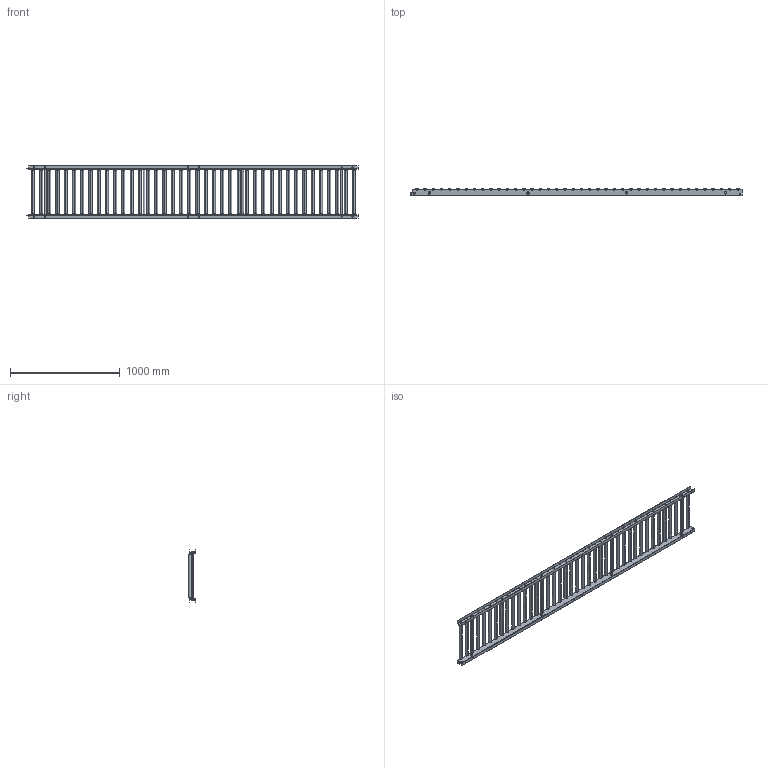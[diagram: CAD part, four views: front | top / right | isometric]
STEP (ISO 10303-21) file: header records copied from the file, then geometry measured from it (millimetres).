
FILE_DESCRIPTION (( 'STEP AP203' ), '1' );
FILE_NAME ('R-2812P.step', '2024-02-20T08:15:12', ( '' ), ( '' ), 'SwSTEP 2.0', 'SolidWorks 2023', '' );
FILE_SCHEMA (( 'CONFIG_CONTROL_DESIGN' ));
Length unit declared in the file: millimetre
Products named in the file (1): R-2812P
Bounding box: 3025 x 66.3 x 475 mm (x, y, z)
Volume: 11728059 mm3; surface area: 4233517.7 mm2
Topology: 104 solids, 104 shells, 1560 faces, 3552 edges, 2288 vertices
Faces by surface type: cylinder 752, plane 600, torus 160, cone 48
Entity records: 45571 total; most frequent: DIRECTION 8578, CARTESIAN_POINT 8073, ORIENTED_EDGE 7104, AXIS2_PLACEMENT_3D 3593, EDGE_CURVE 3552, VERTEX_POINT 2288, CIRCLE 2032, EDGE_LOOP 2032
